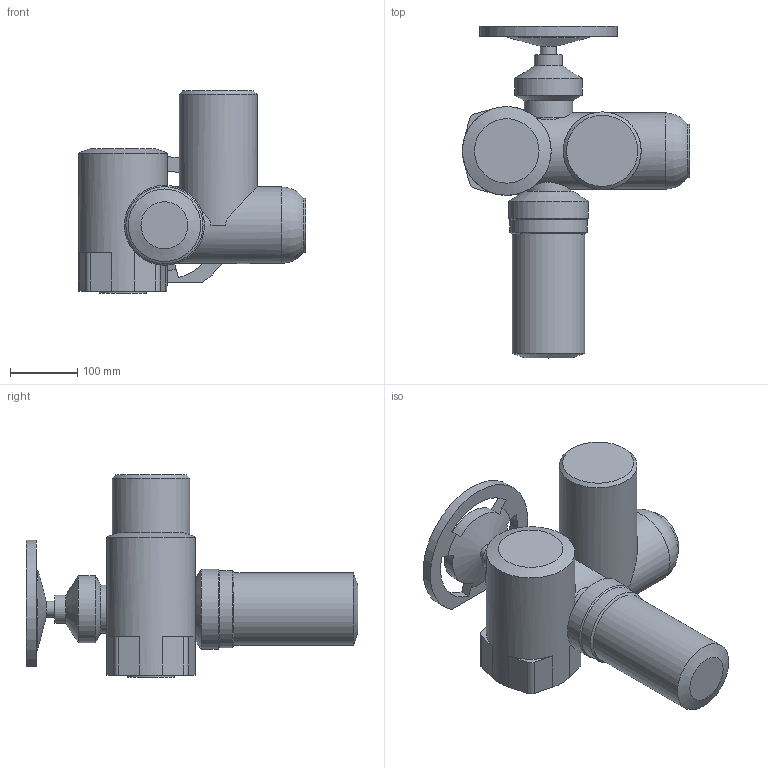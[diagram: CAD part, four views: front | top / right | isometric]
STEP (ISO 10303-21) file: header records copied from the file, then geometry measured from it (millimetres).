
FILE_DESCRIPTION(('STEP AP203'), '1');
FILE_NAME('Ýëåêòðîïðèâîä ÌÒ903.À10 áåç áëîêà óïðàâëåíèÿ', '', ('UNSPECIFIED'), ('UNSPECIFIED'), 'ASCON STEP Converter 1.6', 'ASCON Math Kernel', '');
FILE_SCHEMA(('CONFIG_CONTROL_DESIGN'));
Length unit declared in the file: millimetre
Bounding box: 338 x 494 x 301 mm (x, y, z)
Volume: 9831535.3 mm3; surface area: 441877.5 mm2
Topology: 1 solids, 1 shells, 83 faces, 212 edges, 136 vertices
Faces by surface type: plane 41, cylinder 32, cone 9, torus 1
Full cylindrical faces by diameter (mm): 8.5 x4, 24 x1, 42 x1, 66 x1, 70 x1, 72 x1, 80 x1, 100 x1, 108 x1, 114 x1, 115 x1, 116 x1, 119 x1, 132 x1
Entity records: 4193 total; most frequent: CARTESIAN_POINT 1546, DIRECTION 411, ORIENTED_EDGE 368, EDGE_CURVE 184, AXIS2_PLACEMENT_3D 162, VERTEX_POINT 136, EDGE_LOOP 124, LINE 87
